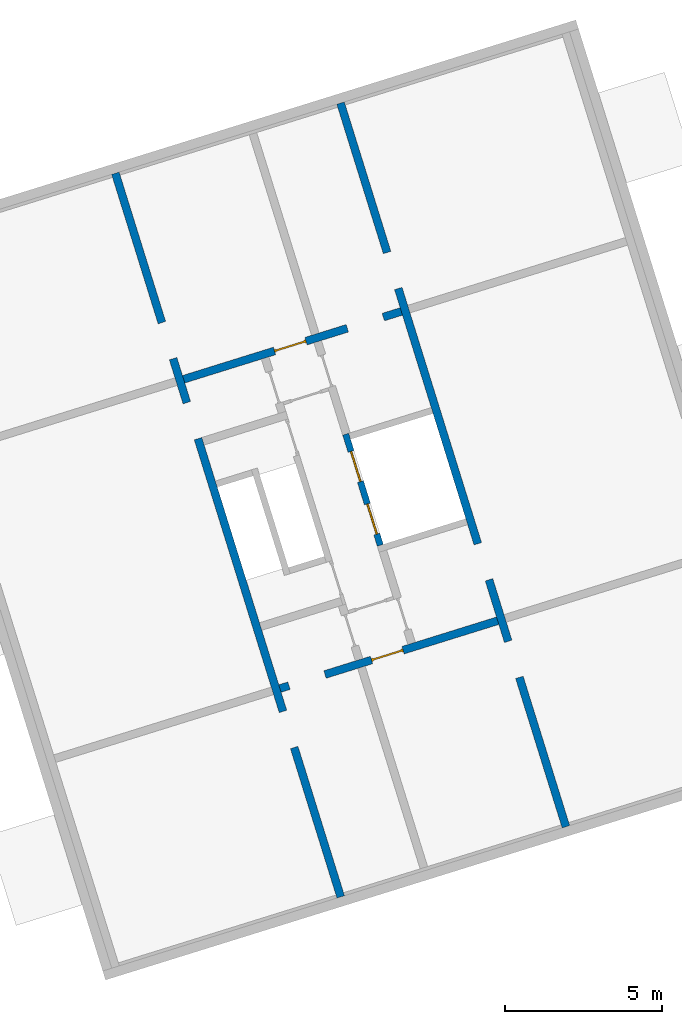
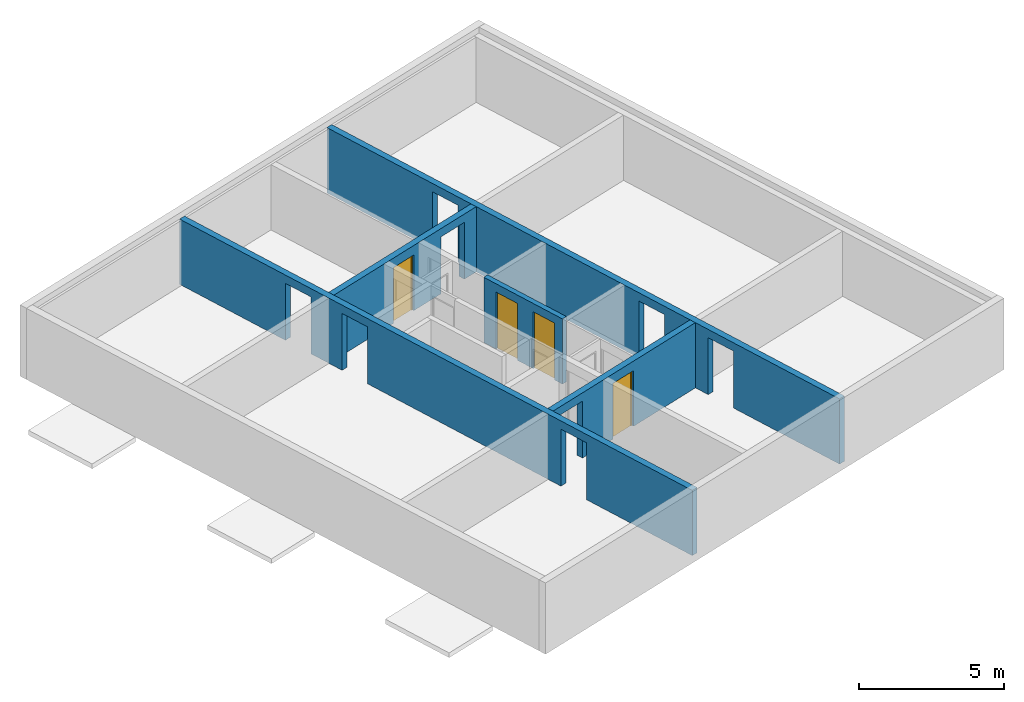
# One storey, part 3 of 3: 5 walls, 4 doors, 12 openings.
"""IFC4 building model written with IfcOpenShell, lengths in metres."""

from ifc_helpers import new_model, entity, si_unit, converted_unit, direction, frame, origin, place, context, subcontext, project, spatial, indexed_curve, outline, extrude, polygons, source, transform, mapped, material, constituent, constituent_set, type_object, type_shapes, element, fill, save


model = new_model("IFC4")

# Units and contexts
model_context = context("Model", 3, precision=1e-05, world=origin(), true_north=direction((6.12323399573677e-17, 1.0)))
body_context = subcontext(model_context, "Body", "Model", "MODEL_VIEW")
ifc_project = project(units=[si_unit("LENGTHUNIT", "METRE"), si_unit("AREAUNIT", "SQUARE_METRE"), si_unit("VOLUMEUNIT", "CUBIC_METRE"), converted_unit("PLANEANGLEUNIT", "DEGREE", entity("IfcPlaneAngleMeasure", 0.0174532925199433), si_unit("PLANEANGLEUNIT", "RADIAN"), dimensions=[0, 0, 0, 0, 0, 0, 0])], contexts=[model_context])

# Site, building, storey
site_placement = place(None, frame((13.1347999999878, 11.9886000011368, 0.0), z_axis=(0.0, 0.0, 1.0), x_axis=(0.954770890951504, 0.297342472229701, 0.0)))
site = spatial("IfcSite", under=ifc_project, at=site_placement, Name="Schiehaven", CompositionType="ELEMENT")
building_placement = place(site_placement, origin())
building = spatial("IfcBuilding", under=site, at=building_placement, Name="VORM huis", CompositionType="ELEMENT")
storey_placement = place(building_placement, frame((0.0, 0.0, 24.9)))
storey = spatial("IfcBuildingStorey", under=building, at=storey_placement, Name="08 achtste verdieping", CompositionType="ELEMENT", Elevation=24.9)

# Wall, openings
ifc_material_1 = material(Name="beton_gewapend_ihw", Category="Miscellaneous")
wall_type_1 = type_object("IfcWallType", Name="Basic Wall:28_WA_skelet_wand 250mm_gen", PredefinedType="STANDARD")
wall_1_placement = place(storey_placement, frame((72.5000000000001, 5.0, 0.0), z_axis=(0.0, 0.0, 1.0), x_axis=(0.0, 1.0, 0.0)))
wall_1 = element("IfcWall", 1, at=wall_1_placement, inside=storey, type_object=wall_type_1, material=ifc_material_1, Name="Constructieve wand", ObjectType="Wand", PredefinedType="NOTDEFINED", context=body_context, shape_type="Tessellation", body=[
    polygons([(24.1, -0.125000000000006, 0.0), (24.1, -0.125000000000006, 2.75), (1.08286712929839e-15, -0.125000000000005, 2.75), (1.08286712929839e-15, -0.125000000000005, 0.0), (4.975, -0.125000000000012, 0.0), (4.975, -0.124999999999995, 2.4), (6.175, -0.124999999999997, 2.4), (6.175, -0.125000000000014, 0.0), (8.22500000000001, -0.125000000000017, 0.0), (8.22500000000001, -0.125, 2.4), (9.425, -0.124999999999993, 2.4), (9.425, -0.125000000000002, 0.0), (17.925, -0.125000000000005, 0.0), (17.925, -0.125000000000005, 2.4), (19.125, -0.125000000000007, 2.4), (19.125, -0.125000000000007, 0.0), (24.1, 0.124999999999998, 2.75), (24.1, 0.124999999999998, 0.0), (19.125, 0.124999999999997, 0.0), (19.125, 0.124999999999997, 2.4), (17.925, 0.124999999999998, 2.4), (17.925, 0.124999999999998, 0.0), (17.325, 0.124999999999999, 0.0), (17.075, 0.125, 0.0), (9.425, 0.125000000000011, 0.0), (9.425, 0.125000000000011, 2.4), (8.22500000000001, 0.124999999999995, 2.4), (8.22500000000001, 0.124999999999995, 0.0), (7.025, 0.124999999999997, 0.0), (6.775, 0.124999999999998, 0.0), (6.175, 0.124999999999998, 0.0), (6.175, 0.124999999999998, 2.4), (4.975, 0.125, 2.4), (4.975, 0.125, 0.0), (1.08286712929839e-15, 0.124999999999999, 0.0), (1.08286712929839e-15, 0.124999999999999, 2.75), (6.775, 0.124999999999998, 2.75), (7.025, 0.124999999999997, 2.75), (17.075, 0.125, 2.75), (17.325, 0.124999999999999, 2.75)], [[[1, 2, 3, 4, 5, 6, 7, 8, 9, 10, 11, 12, 13, 14, 15, 16]], [[17, 18, 19, 20, 21, 22, 23, 24, 25, 26, 27, 28, 29, 30, 31, 32, 33, 34, 35, 36, 37, 38, 39, 40]], [[4, 35, 34, 5]], [[2, 1, 18, 17]], [[3, 2, 17, 40, 39, 38, 37, 36]], [[4, 3, 36, 35]], [[6, 33, 32, 7]], [[33, 6, 5, 34]], [[7, 32, 31, 8]], [[10, 27, 26, 11]], [[27, 10, 9, 28]], [[11, 26, 25, 12]], [[14, 21, 20, 15]], [[21, 14, 13, 22]], [[15, 20, 19, 16]], [[8, 31, 30, 29, 28, 9]], [[12, 25, 24, 23, 22, 13]], [[18, 1, 16, 19]]], closed=True),
])
opening_1_placement = place(wall_1_placement, origin())
element("IfcOpeningElement", 2, at=opening_1_placement, cuts=wall_1, Name="Constructieve wand", PredefinedType="OPENING", context=body_context, shape_type="SweptSolid", body=[
    extrude(outline(indexed_curve([(-1.2, -0.599999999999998), (1.2, -0.599999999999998), (1.2, 0.599999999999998), (-1.2, 0.599999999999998), (-1.2, -0.599999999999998)], self_intersect=False)), frame((5.575, -0.124999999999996, 1.2), z_axis=(0.0, 1.0, 0.0), x_axis=(0.0, 0.0, -1.0)), (0.0, 0.0, 1.0), 0.249999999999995),
])
opening_2_placement = place(wall_1_placement, origin())
element("IfcOpeningElement", 3, at=opening_2_placement, cuts=wall_1, Name="Constructieve wand", PredefinedType="OPENING", context=body_context, shape_type="SweptSolid", body=[
    extrude(outline(indexed_curve([(-1.2, -0.599999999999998), (1.2, -0.599999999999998), (1.2, 0.599999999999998), (-1.2, 0.599999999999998), (-1.2, -0.599999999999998)], self_intersect=False)), frame((8.82500000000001, -0.124999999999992, 1.2), z_axis=(0.0, 1.0, 0.0), x_axis=(0.0, 0.0, -1.0)), (0.0, 0.0, 1.0), 0.250000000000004),
])
opening_3_placement = place(wall_1_placement, origin())
element("IfcOpeningElement", 4, at=opening_3_placement, cuts=wall_1, Name="Constructieve wand", PredefinedType="OPENING", context=body_context, shape_type="SweptSolid", body=[
    extrude(outline(indexed_curve([(-1.2, -0.600000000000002), (1.2, -0.600000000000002), (1.2, 0.599999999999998), (-1.2, 0.599999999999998), (-1.2, -0.600000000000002)], self_intersect=False)), frame((18.525, -0.124999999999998, 1.2), z_axis=(0.0, 1.0, 0.0), x_axis=(0.0, 0.0, -1.0)), (0.0, 0.0, 1.0), 0.249999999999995),
])

# Wall, openings, door
wall_2_placement = place(storey_placement, frame((72.3750000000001, 22.1999999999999, 0.0), z_axis=(0.0, 0.0, 1.0), x_axis=(-1.0, 0.0, 0.0)))
wall_2 = element("IfcWall", 5, at=wall_2_placement, inside=storey, type_object=wall_type_1, material=ifc_material_1, Name="Constructieve wand", ObjectType="Wand", PredefinedType="NOTDEFINED", context=body_context, shape_type="Tessellation", body=[
    polygons([(4.22499999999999, -0.124999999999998, 2.34999999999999), (4.22499999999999, -0.124999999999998, 0.0), (7.24999999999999, -0.124999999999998, 0.0), (7.24999999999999, -0.124999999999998, 2.75), (5.55409093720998e-16, -0.124999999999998, 2.75), (5.55409093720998e-16, -0.124999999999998, 0.0), (0.599999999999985, -0.124999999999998, 0.0), (0.599999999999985, -0.124999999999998, 2.4), (1.79999999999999, -0.124999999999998, 2.4), (1.79999999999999, -0.124999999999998, 0.0), (3.17499999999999, -0.124999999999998, 0.0), (3.17499999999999, -0.124999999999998, 2.34999999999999), (7.24999999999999, 0.125000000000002, 0.0), (4.22499999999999, 0.125000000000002, 0.0), (4.22499999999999, 0.125000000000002, 2.34999999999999), (3.17499999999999, 0.125000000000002, 2.34999999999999), (3.17499999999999, 0.125000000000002, 0.0), (1.79999999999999, 0.125000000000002, 0.0), (1.79999999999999, 0.125000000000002, 2.4), (0.599999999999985, 0.125000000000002, 2.4), (0.599999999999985, 0.125000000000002, 0.0), (5.49189507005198e-16, 0.125000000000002, 0.0), (5.49189507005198e-16, 0.125000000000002, 2.75), (7.24999999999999, 0.125000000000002, 2.75)], [[[1, 2, 3, 4, 5, 6, 7, 8, 9, 10, 11, 12]], [[13, 14, 15, 16, 17, 18, 19, 20, 21, 22, 23, 24]], [[6, 22, 21, 7]], [[5, 4, 24, 23]], [[4, 3, 13, 24]], [[17, 16, 12, 11]], [[15, 14, 2, 1]], [[16, 15, 1, 12]], [[20, 8, 7, 21]], [[9, 19, 18, 10]], [[8, 20, 19, 9]], [[6, 5, 23, 22]], [[11, 10, 18, 17]], [[3, 2, 14, 13]]], closed=True),
])
opening_4_placement = place(wall_2_placement, origin())
element("IfcOpeningElement", 6, at=opening_4_placement, cuts=wall_2, Name="Constructieve wand", PredefinedType="OPENING", context=body_context, shape_type="SweptSolid", body=[
    extrude(outline(indexed_curve([(-1.2, -0.600000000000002), (1.2, -0.600000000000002), (1.2, 0.600000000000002), (-1.2, 0.600000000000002), (-1.2, -0.600000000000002)], self_intersect=False)), frame((1.19999999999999, -0.125000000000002, 1.2), z_axis=(0.0, 1.0, 0.0), x_axis=(0.0, 0.0, -1.0)), (0.0, 0.0, 1.0), 0.250000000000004),
])
opening_5_placement = place(wall_2_placement, frame((3.17499999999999, -0.125000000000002, 0.0)))
opening_5 = element("IfcOpeningElement", 7, at=opening_5_placement, cuts=wall_2, Name="Woningtoegangsdeur", PredefinedType="OPENING", context=body_context, shape_type="SweptSolid", body=[
    extrude(outline(indexed_curve([(2.34999999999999, -4.20936625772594e-34), (2.34999999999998, 1.05), (0.0, 1.05), (2.16573425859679e-15, -4.20936625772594e-34), (2.34999999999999, -4.20936625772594e-34)], self_intersect=False)), frame((0.0, 0.0, 0.0), z_axis=(0.0, 1.0, 0.0), x_axis=(0.0, 0.0, 1.0)), (0.0, 0.0, 1.0), 0.25),
])
ifc_material_2 = material(Name="PD_a_binnenwandopeningen", Category="Miscellaneous")
ifc_constituent_1 = constituent(ifc_material_2, Name="PD_a_binnenwandopeningen", Category="Miscellaneous")
ifc_material_3 = material(Name="metaal_aluminium_ntb", Category="Miscellaneous")
ifc_constituent_2 = constituent(ifc_material_3, Name="metaal_aluminium_ntb", Category="Miscellaneous")
ifc_constituent_set_1 = constituent_set(constituents=[ifc_constituent_1, ifc_constituent_2])
ifc_constituent_3 = constituent(ifc_material_2, Name="PD_a_binnenwandopeningen", Category="Miscellaneous")
ifc_constituent_4 = constituent(ifc_material_3, Name="Panel", Category="Miscellaneous")
ifc_constituent_set_2 = constituent_set(constituents=[ifc_constituent_3, ifc_constituent_4])
door_type_1 = type_object("IfcDoorType", Name="32_DO_binnendeur enkel:woningtoegangsdeur", OperationType="REVOLVING", PredefinedType="DOOR", material=ifc_constituent_set_2)
shared_shape_1 = source(origin(), body_context, "Body", "SweptSolid", [
    extrude(outline(indexed_curve([(0.475, -1.16249999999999), (0.525000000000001, -1.16249999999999), (0.525000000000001, 1.18749999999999), (-0.525000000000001, 1.18749999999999), (-0.525000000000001, -1.16249999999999), (-0.475, -1.16249999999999), (-0.475, 1.13749999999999), (0.475, 1.13749999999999), (0.475, -1.16249999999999)], self_intersect=False)), frame((0.525000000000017, 0.174999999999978, 1.16249999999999), z_axis=(0.0, -1.0, 0.0), x_axis=(1.0, 0.0, 0.0)), (0.0, 0.0, 1.0), 0.1),
    extrude(outline(indexed_curve([(-0.475, -0.025), (0.475, -0.025), (0.475, 0.025), (-0.475, 0.025), (-0.475, -0.025)], self_intersect=False)), frame((0.525000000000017, 0.12499999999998, 0.0)), (0.0, 0.0, 1.0), 2.29999999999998),
])
type_shapes(door_type_1, [shared_shape_1])
door_1_placement = place(opening_5_placement, origin())
door_1 = element("IfcDoor", 8, at=door_1_placement, inside=storey, type_object=door_type_1, material=ifc_constituent_set_1, Name="Woningtoegangsdeur", ObjectType="Deur", OperationType="REVOLVING", OverallHeight=2.34999999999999, OverallWidth=1.05, PredefinedType="DOOR", context=body_context, shape_type="MappedRepresentation", body=[
    mapped(shared_shape_1, transform((0.0, 0.0, 0.0), scale=1.0)),
])
fill(opening_5, door_1)

# Wall, openings
wall_3_placement = place(storey_placement, frame((65.0, 29.0999999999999, 0.0), z_axis=(0.0, 0.0, 1.0), x_axis=(0.0, -1.0, 0.0)))
wall_3 = element("IfcWall", 9, at=wall_3_placement, inside=storey, type_object=wall_type_1, material=ifc_material_1, Name="Constructieve wand", ObjectType="Wand", PredefinedType="NOTDEFINED", context=body_context, shape_type="Tessellation", body=[
    polygons([(24.1, -0.125, 0.0), (24.1, -0.125, 2.75), (0.0, -0.125000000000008, 2.75), (0.0, -0.125000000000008, 0.0), (4.975, -0.125000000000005, 0.0), (4.975, -0.125000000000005, 2.4), (6.175, -0.125000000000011, 2.4), (6.175, -0.125000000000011, 0.0), (7.64, -0.125000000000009, 0.0), (7.64, -0.125000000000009, 2.4), (8.84, -0.124999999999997, 2.4), (8.84, -0.124999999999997, 0.0), (17.925, -0.125000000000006, 0.0), (17.925, -0.124999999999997, 2.4), (19.125, -0.125000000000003, 2.4), (19.125, -0.125000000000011, 0.0), (24.1, 0.124999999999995, 2.75), (24.1, 0.124999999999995, 0.0), (19.125, 0.125000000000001, 0.0), (19.125, 0.125000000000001, 2.4), (17.925, 0.125000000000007, 2.4), (17.925, 0.125000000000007, 0.0), (17.325, 0.124999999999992, 0.0), (17.075, 0.124999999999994, 0.0), (8.84, 0.124999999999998, 0.0), (8.84, 0.124999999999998, 2.4), (7.64, 0.124999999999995, 2.4), (7.64, 0.124999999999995, 0.0), (7.025, 0.124999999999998, 0.0), (6.775, 0.124999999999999, 0.0), (6.175, 0.124999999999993, 0.0), (6.175, 0.124999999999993, 2.4), (4.975, 0.124999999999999, 2.4), (4.975, 0.124999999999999, 0.0), (0.0, 0.124999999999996, 0.0), (0.0, 0.124999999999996, 2.75), (6.775, 0.124999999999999, 2.75), (7.025, 0.124999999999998, 2.75), (17.075, 0.124999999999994, 2.75), (17.325, 0.124999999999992, 2.75)], [[[1, 2, 3, 4, 5, 6, 7, 8, 9, 10, 11, 12, 13, 14, 15, 16]], [[17, 18, 19, 20, 21, 22, 23, 24, 25, 26, 27, 28, 29, 30, 31, 32, 33, 34, 35, 36, 37, 38, 39, 40]], [[4, 35, 34, 5]], [[2, 1, 18, 17]], [[3, 2, 17, 40, 39, 38, 37, 36]], [[4, 3, 36, 35]], [[6, 33, 32, 7]], [[33, 6, 5, 34]], [[7, 32, 31, 8]], [[10, 27, 26, 11]], [[27, 10, 9, 28]], [[11, 26, 25, 12]], [[14, 21, 20, 15]], [[21, 14, 13, 22]], [[15, 20, 19, 16]], [[8, 31, 30, 29, 28, 9]], [[12, 25, 24, 23, 22, 13]], [[18, 1, 16, 19]]], closed=True),
])
opening_6_placement = place(wall_3_placement, origin())
element("IfcOpeningElement", 10, at=opening_6_placement, cuts=wall_3, Name="Constructieve wand", PredefinedType="OPENING", context=body_context, shape_type="SweptSolid", body=[
    extrude(outline(indexed_curve([(-1.2, -0.599999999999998), (1.2, -0.599999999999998), (1.2, 0.599999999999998), (-1.2, 0.599999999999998), (-1.2, -0.599999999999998)], self_intersect=False)), frame((5.575, -0.124999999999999, 1.2), z_axis=(0.0, 1.0, 0.0), x_axis=(0.0, 0.0, -1.0)), (0.0, 0.0, 1.0), 0.249999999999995),
])
opening_7_placement = place(wall_3_placement, origin())
element("IfcOpeningElement", 11, at=opening_7_placement, cuts=wall_3, Name="Constructieve wand", PredefinedType="OPENING", context=body_context, shape_type="SweptSolid", body=[
    extrude(outline(indexed_curve([(-1.2, -0.599999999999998), (1.2, -0.599999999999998), (1.2, 0.599999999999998), (-1.2, 0.599999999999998), (-1.2, -0.599999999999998)], self_intersect=False)), frame((8.24, -0.125000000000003, 1.2), z_axis=(0.0, 1.0, 0.0), x_axis=(0.0, 0.0, -1.0)), (0.0, 0.0, 1.0), 0.250000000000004),
])
opening_8_placement = place(wall_3_placement, origin())
element("IfcOpeningElement", 12, at=opening_8_placement, cuts=wall_3, Name="Constructieve wand", PredefinedType="OPENING", context=body_context, shape_type="SweptSolid", body=[
    extrude(outline(indexed_curve([(-1.2, -0.599999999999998), (1.2, -0.599999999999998), (1.2, 0.599999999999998), (-1.2, 0.599999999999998), (-1.2, -0.599999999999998)], self_intersect=False)), frame((18.525, -0.125, 1.2), z_axis=(0.0, 1.0, 0.0), x_axis=(0.0, 0.0, -1.0)), (0.0, 0.0, 1.0), 0.249999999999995),
])

# Wall, openings, door
wall_4_placement = place(storey_placement, frame((65.1250000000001, 11.8999999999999, 0.0)))
wall_4 = element("IfcWall", 13, at=wall_4_placement, inside=storey, type_object=wall_type_1, material=ifc_material_1, Name="Constructieve wand", ObjectType="Wand", PredefinedType="NOTDEFINED", context=body_context, shape_type="Tessellation", body=[
    polygons([(4.09999999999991, -0.125, 2.34999999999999), (4.09999999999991, -0.125, 0.0), (7.24999999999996, -0.125000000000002, 0.0), (7.24999999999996, -0.125000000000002, 2.75), (-2.44260404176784e-15, -0.125, 2.75), (-2.44260404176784e-15, -0.125, 0.0), (0.29999999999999, -0.125000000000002, 0.0), (0.29999999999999, -0.125000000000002, 2.4), (1.49999999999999, -0.125, 2.4), (1.49999999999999, -0.125, 0.0), (3.04999999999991, -0.125000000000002, 0.0), (3.04999999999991, -0.125000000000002, 2.34999999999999), (7.24999999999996, 0.124999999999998, 0.0), (4.09999999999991, 0.125, 0.0), (4.09999999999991, 0.125, 2.34999999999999), (3.04999999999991, 0.124999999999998, 2.34999999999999), (3.04999999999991, 0.124999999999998, 0.0), (1.49999999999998, 0.125, 0.0), (1.49999999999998, 0.125, 2.4), (0.299999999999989, 0.124999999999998, 2.4), (0.299999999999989, 0.124999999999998, 0.0), (-3.2301699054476e-15, 0.125, 0.0), (-3.2301699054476e-15, 0.125, 2.75), (7.24999999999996, 0.124999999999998, 2.75)], [[[1, 2, 3, 4, 5, 6, 7, 8, 9, 10, 11, 12]], [[13, 14, 15, 16, 17, 18, 19, 20, 21, 22, 23, 24]], [[6, 22, 21, 7]], [[5, 4, 24, 23]], [[17, 16, 12, 11]], [[15, 14, 2, 1]], [[16, 15, 1, 12]], [[8, 20, 19, 9]], [[20, 8, 7, 21]], [[9, 19, 18, 10]], [[6, 5, 23, 22]], [[4, 3, 13, 24]], [[11, 10, 18, 17]], [[3, 2, 14, 13]]], closed=True),
])
opening_9_placement = place(wall_4_placement, origin())
element("IfcOpeningElement", 14, at=opening_9_placement, cuts=wall_4, Name="Constructieve wand", PredefinedType="OPENING", context=body_context, shape_type="SweptSolid", body=[
    extrude(outline(indexed_curve([(-1.2, -0.599999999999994), (1.2, -0.599999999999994), (1.2, 0.600000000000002), (-1.2, 0.600000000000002), (-1.2, -0.599999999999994)], self_intersect=False)), frame((0.899999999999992, -0.125, 1.2), z_axis=(0.0, 1.0, 0.0), x_axis=(0.0, 0.0, -1.0)), (0.0, 0.0, 1.0), 0.249999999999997),
])
opening_10_placement = place(wall_4_placement, frame((3.0499999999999, -0.125000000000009, 0.0)))
opening_10 = element("IfcOpeningElement", 15, at=opening_10_placement, cuts=wall_4, Name="Woningtoegangsdeur", PredefinedType="OPENING", context=body_context, shape_type="SweptSolid", body=[
    extrude(outline(indexed_curve([(2.34999999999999, -3.25141127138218e-30), (2.34999999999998, 1.05), (0.0, 1.05), (2.16573425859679e-15, -3.25141127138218e-30), (2.34999999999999, -3.25141127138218e-30)], self_intersect=False)), frame((0.0, 0.0, 0.0), z_axis=(0.0, 1.0, 0.0), x_axis=(0.0, 0.0, 1.0)), (0.0, 0.0, 1.0), 0.25),
])
ifc_constituent_5 = constituent(ifc_material_2, Name="PD_a_binnenwandopeningen", Category="Miscellaneous")
ifc_constituent_6 = constituent(ifc_material_3, Name="metaal_aluminium_ntb", Category="Miscellaneous")
ifc_constituent_set_3 = constituent_set(constituents=[ifc_constituent_5, ifc_constituent_6])
door_2_placement = place(opening_10_placement, origin())
door_2 = element("IfcDoor", 16, at=door_2_placement, inside=storey, type_object=door_type_1, material=ifc_constituent_set_3, Name="Woningtoegangsdeur", ObjectType="Deur", OperationType="REVOLVING", OverallHeight=2.34999999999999, OverallWidth=1.05, PredefinedType="DOOR", context=body_context, shape_type="MappedRepresentation", body=[
    mapped(shared_shape_1, transform((0.0, 0.0, 0.0), scale=1.0)),
])
fill(opening_10, door_2)

# Wall, openings, doors
ifc_material_4 = material(Name="beton_gewapend_prefab-element", Category="Miscellaneous")
wall_type_2 = type_object("IfcWallType", Name="Basic Wall:28_WA_skelet_wand 200mm_gen", PredefinedType="STANDARD")
wall_5_placement = place(storey_placement, frame((69.5250000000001, 15.2999999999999, 0.0), z_axis=(0.0, 0.0, 1.0), x_axis=(0.0, 1.0, 0.0)))
wall_5 = element("IfcWall", 17, at=wall_5_placement, inside=storey, type_object=wall_type_2, material=ifc_material_4, Name="Constructieve wand", ObjectType="Wand", PredefinedType="NOTDEFINED", context=body_context, shape_type="Tessellation", body=[
    polygons([(3.69999999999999, -0.100000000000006, 2.75), (3.49999999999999, -0.0999999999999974, 2.75), (0.0, -0.100000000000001, 2.75), (0.0, -0.100000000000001, 0.0), (0.374999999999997, -0.100000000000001, 0.0), (0.374999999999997, -0.100000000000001, 2.39999999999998), (1.37499999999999, -0.100000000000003, 2.39999999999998), (1.37499999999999, -0.100000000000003, 0.0), (2.125, -0.100000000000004, 0.0), (2.125, -0.100000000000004, 2.39999999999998), (3.125, -0.0999999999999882, 2.39999999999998), (3.125, -0.100000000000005, 0.0), (3.49999999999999, -0.0999999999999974, 0.0), (3.69999999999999, -0.100000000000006, 0.0), (0.0, 0.100000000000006, 2.75), (3.69999999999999, 0.1, 2.75), (3.69999999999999, 0.1, 0.0), (3.125, 0.100000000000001, 0.0), (3.125, 0.100000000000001, 2.39999999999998), (2.125, 0.100000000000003, 2.39999999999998), (2.125, 0.100000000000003, 0.0), (1.37499999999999, 0.100000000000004, 0.0), (1.37499999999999, 0.100000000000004, 2.39999999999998), (0.374999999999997, 0.100000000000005, 2.39999999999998), (0.374999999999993, 0.100000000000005, 0.0), (0.0, 0.100000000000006, 0.0)], [[[1, 2, 3, 4, 5, 6, 7, 8, 9, 10, 11, 12, 13, 14]], [[15, 16, 17, 18, 19, 20, 21, 22, 23, 24, 25, 26]], [[5, 4, 26, 25]], [[3, 2, 1, 16, 15]], [[7, 23, 22, 8]], [[24, 6, 5, 25]], [[23, 7, 6, 24]], [[11, 19, 18, 12]], [[20, 10, 9, 21]], [[19, 11, 10, 20]], [[1, 14, 17, 16]], [[4, 3, 15, 26]], [[8, 22, 21, 9]], [[17, 14, 13, 12, 18]]], closed=True),
])
opening_11_placement = place(wall_5_placement, frame((-15.2999999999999, 69.5250000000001, 0.0), z_axis=(0.0, 0.0, 1.0), x_axis=(0.0, -1.0, 0.0)))
opening_11 = element("IfcOpeningElement", 18, at=opening_11_placement, cuts=wall_5, Name="Brandweerlift", PredefinedType="OPENING", context=body_context, shape_type="SweptSolid", body=[
    extrude(outline(indexed_curve([(-1.19999999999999, -0.499999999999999), (1.19999999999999, -0.499999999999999), (1.19999999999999, 0.500000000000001), (-1.19999999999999, 0.500000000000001), (-1.19999999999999, -0.499999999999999)], self_intersect=False)), frame((70.0126380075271, 16.1749999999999, 1.19999999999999), z_axis=(-1.0, 0.0, 0.0), x_axis=(0.0, 0.0, -1.0)), (0.0, 0.0, 1.0), 0.756310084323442),
])
opening_12_placement = place(wall_5_placement, frame((-15.2999999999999, 69.5250000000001, 0.0), z_axis=(0.0, 0.0, 1.0), x_axis=(0.0, -1.0, 0.0)))
opening_12 = element("IfcOpeningElement", 19, at=opening_12_placement, cuts=wall_5, Name="Brandweerlift", PredefinedType="OPENING", context=body_context, shape_type="SweptSolid", body=[
    extrude(outline(indexed_curve([(-1.19999999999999, -0.499999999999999), (1.19999999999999, -0.499999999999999), (1.19999999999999, 0.500000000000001), (-1.19999999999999, 0.500000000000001), (-1.19999999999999, -0.499999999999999)], self_intersect=False)), frame((70.0126380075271, 17.9249999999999, 1.19999999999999), z_axis=(-1.0, 0.0, 0.0), x_axis=(0.0, 0.0, -1.0)), (0.0, 0.0, 1.0), 0.756310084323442),
])
door_type_2 = type_object("IfcDoorType", Name="66_WI_liftdeur:brandweerlift - tweezijdig toegankelijk", OperationType="NOTDEFINED", PredefinedType="DOOR", material=ifc_material_3)
shared_shape_2 = source(origin(), body_context, "Body", "SweptSolid", [
    extrude(outline(indexed_curve([(-0.25, -0.0250000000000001), (0.25, -0.0249999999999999), (0.25, 0.0250000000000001), (-0.25, 0.0249999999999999), (-0.25, -0.0250000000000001)], self_intersect=False)), frame((0.750000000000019, -0.28763800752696, 0.0)), (0.0, 0.0, 1.0), 2.39999999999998),
    extrude(outline(indexed_curve([(-0.25, -0.0250000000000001), (0.25, -0.0249999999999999), (0.25, 0.0250000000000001), (-0.25, 0.0249999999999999), (-0.25, -0.0250000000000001)], self_intersect=False)), frame((0.250000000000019, -0.287638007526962, 0.0)), (0.0, 0.0, 1.0), 2.39999999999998),
])
type_shapes(door_type_2, [shared_shape_2])
door_3_placement = place(opening_11_placement, frame((69.2373619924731, 15.6749999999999, 0.0), z_axis=(0.0, 0.0, 1.0), x_axis=(0.0, 1.0, 0.0)))
door_3 = element("IfcDoor", 20, at=door_3_placement, inside=storey, type_object=door_type_2, material=ifc_material_3, Name="Brandweerlift", ObjectType="Transport", OperationType="NOTDEFINED", OverallHeight=2.39999999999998, OverallWidth=1.0, PredefinedType="DOOR", context=body_context, shape_type="MappedRepresentation", body=[
    mapped(shared_shape_2, transform((0.0, 0.0, 0.0), scale=1.0)),
])
fill(opening_11, door_3)
door_4_placement = place(opening_12_placement, frame((69.2373619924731, 17.4249999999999, 0.0), z_axis=(0.0, 0.0, 1.0), x_axis=(0.0, 1.0, 0.0)))
door_4 = element("IfcDoor", 21, at=door_4_placement, inside=storey, type_object=door_type_2, material=ifc_material_3, Name="Brandweerlift", ObjectType="Transport", OperationType="NOTDEFINED", OverallHeight=2.39999999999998, OverallWidth=1.0, PredefinedType="DOOR", context=body_context, shape_type="MappedRepresentation", body=[
    mapped(shared_shape_2, transform((0.0, 0.0, 0.0), scale=1.0)),
])
fill(opening_12, door_4)

save(model, "model.ifc")
